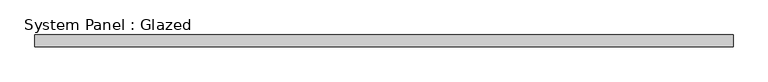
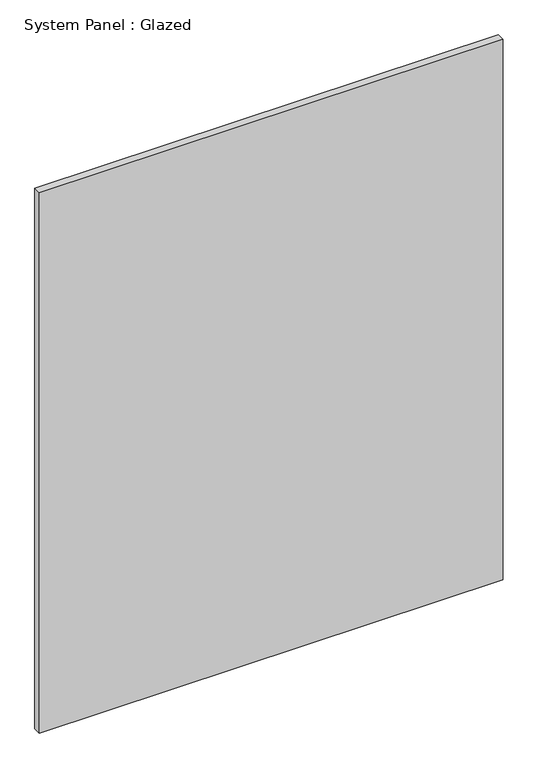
"""IFC4 building model written with IfcOpenShell, lengths in millimetres: plate geometry, System Panel : Glazed."""

from ifc_helpers import new_model, si_unit, origin, origin_with_axes, place, context, project, spatial, polyline, outline, extrude, source, transform, mapped, element, save


def system_panel_glazed_bf2f9530(model_context):
    return source(origin(), model_context, "Body", "SweptSolid", [
        extrude(outline(polyline([(742.4954406, 19.05), (-742.4954406, 19.05), (-742.4954406, 44.45), (742.4954406, 44.45), (742.4954406, 19.05)])), origin_with_axes(), (0.0, 0.0, 1.0), 1828.8),
    ])


if __name__ == "__main__":
    model = new_model("IFC4")
    model_context = context("Model", 3, world=origin())
    ifc_project = project(units=[si_unit("LENGTHUNIT", "METRE", prefix="MILLI")], contexts=[model_context])
    site = spatial("IfcSite", under=ifc_project)
    building = spatial("IfcBuilding", under=site)
    placement = place(None, origin())
    system_panel_glazed_shape = system_panel_glazed_bf2f9530(model_context)
    element("IfcPlate", 1, ObjectType="System Panel : Glazed", at=placement, inside=building, context=model_context, shape_type="MappedRepresentation", body=[
        mapped(system_panel_glazed_shape, transform((0.0, 0.0, 0.0), x_axis=(1.0, 0.0, 0.0), y_axis=(0.0, 1.0, 0.0), z_axis=(0.0, 0.0, 1.0))),
    ])
    save(model, "model.ifc")
